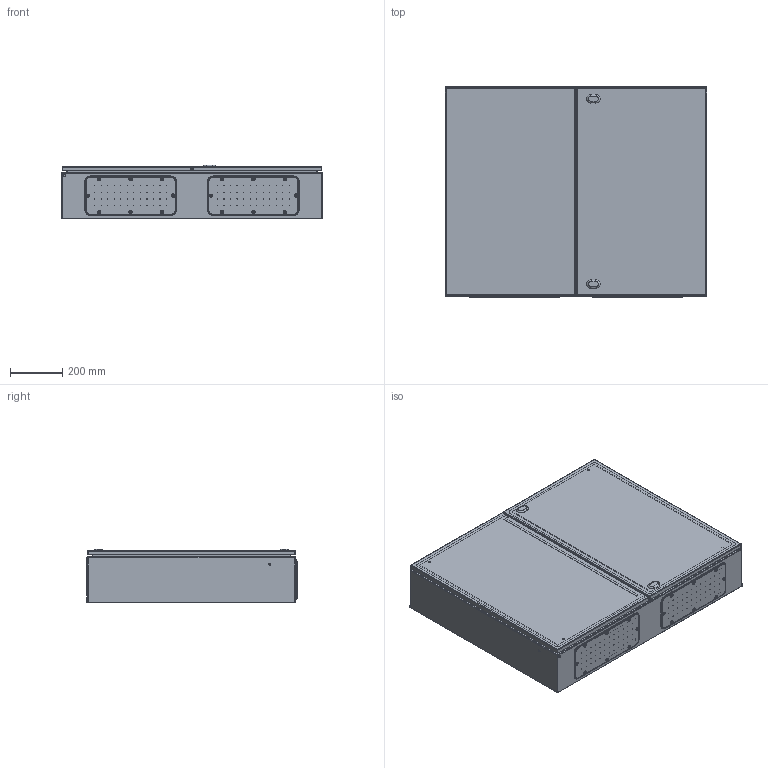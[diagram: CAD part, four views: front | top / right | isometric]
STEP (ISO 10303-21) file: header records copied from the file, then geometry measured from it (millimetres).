
FILE_DESCRIPTION(/* description */ ('STEP AP214'),/* implementation_level */ '2;1');
FILE_NAME(/* name */ 'EC100820-LOD400',/* time_stamp */ '2025-08-01T14:16:39+02:00',/* author */ ('License CC BY-ND 4.0'),/* organization */ ('CADENAS'),/* preprocessor_version */ 'ST-DEVELOPER v19.3',/* originating_system */ 'PARTsolutions',/* authorisation */ ' ');
FILE_SCHEMA (('AUTOMOTIVE_DESIGN {1 0 10303 214 3 1 1}'));
Length unit declared in the file: millimetre
Products named in the file (6): EC100820-LOD400; EC100820-LOD400_cabinet; EC100820-LOD400_door_l; EC100820-LOD400_door_r; EC100820-LOD400_bottomplate; EC100820-LOD400_plate
Assembly tree (6 placements, depth 2):
  EC100820-LOD400
    EC100820-LOD400_cabinet
    EC100820-LOD400_door_l
    EC100820-LOD400_door_r
    EC100820-LOD400_bottomplate  x2
    EC100820-LOD400_plate
Bounding box: 1000 x 804 x 205 mm (x, y, z)
Volume: 6101003.8 mm3; surface area: 6683289 mm2
Topology: 6 solids, 6 shells, 902 faces, 2212 edges, 1454 vertices
Faces by surface type: plane 367, cylinder 367, torus 86, cone 82
Full cylindrical faces by diameter (mm): 1 x96, 4.5 x100, 5.5 x12, 6 x6, 7 x4, 8 x14, 10 x10, 14 x4
Entity records: 20259 total; most frequent: DIRECTION 3636, CARTESIAN_POINT 3283, ORIENTED_EDGE 2932, EDGE_CURVE 1466, AXIS2_PLACEMENT_3D 1457, EDGE_LOOP 1312, FACE_BOUND 1312, VERTEX_POINT 1104
